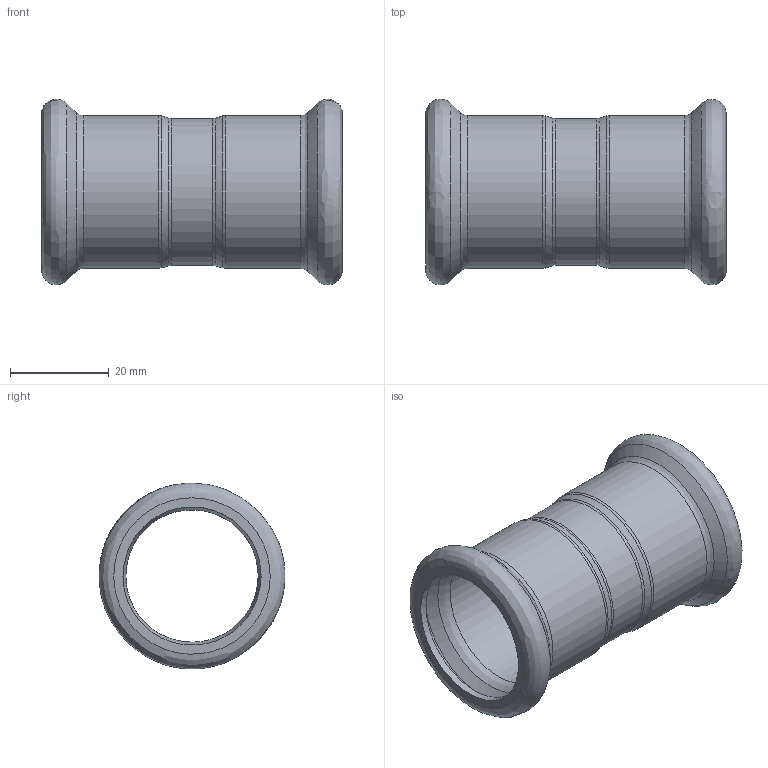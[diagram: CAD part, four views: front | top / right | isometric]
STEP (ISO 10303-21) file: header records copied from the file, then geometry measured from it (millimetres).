
FILE_DESCRIPTION(('FreeCAD Model'),'2;1');
FILE_NAME('Open CASCADE Shape Model','2025-10-20T15:02:36',('Author'),( ''),'Open CASCADE STEP processor 7.8','FreeCAD','Unknown');
FILE_SCHEMA(('AUTOMOTIVE_DESIGN { 1 0 10303 214 1 1 1 1 }'));
Length unit declared in the file: millimetre
Products named in the file (1): Solido1
Bounding box: 61 x 37.65 x 37.7 mm (x, y, z)
Volume: 9789.1 mm3; surface area: 13357 mm2
Topology: 1 solids, 1 shells, 32 faces, 114 edges, 86 vertices
Faces by surface type: bspline 32
Entity records: 1801 total; most frequent: CARTESIAN_POINT 1205, ORIENTED_EDGE 228, EDGE_CURVE 114, VERTEX_POINT 86, FACE_BOUND 36, EDGE_LOOP 36, ADVANCED_FACE 32, B_SPLINE_CURVE_WITH_KNOTS 16
